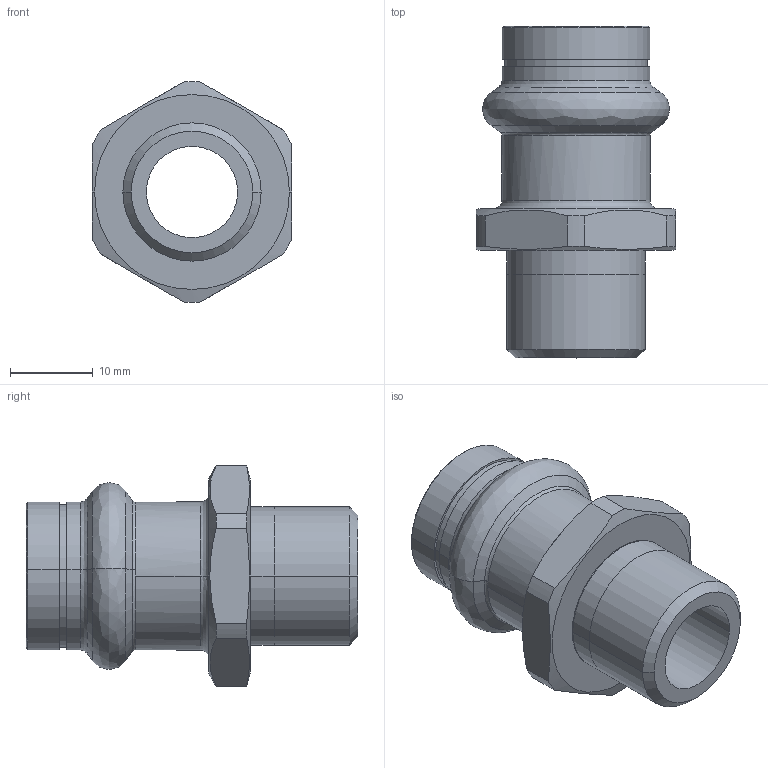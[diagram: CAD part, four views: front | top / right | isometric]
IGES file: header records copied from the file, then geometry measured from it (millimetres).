
Start section: Elysium IGES Interface
Global section: file name: C:\3d modellen sudo\C-Pr VP\SP8243GV\8243GVW1538.igs; native system: CoCreate Modeling 17.00A  17-Jun-2010; preprocessor: CoCreate IGES_3D V2.2; author: Unknown; organization: Unknown; date: 20130305.102736; units: millimetre
Bounding box: 24 x 40 x 26.59 mm (x, y, z)
Volume: 5622.9 mm3; surface area: 4965.2 mm2
Topology: 1 solids, 1 shells, 66 faces, 150 edges, 92 vertices
Faces by surface type: bspline 66
